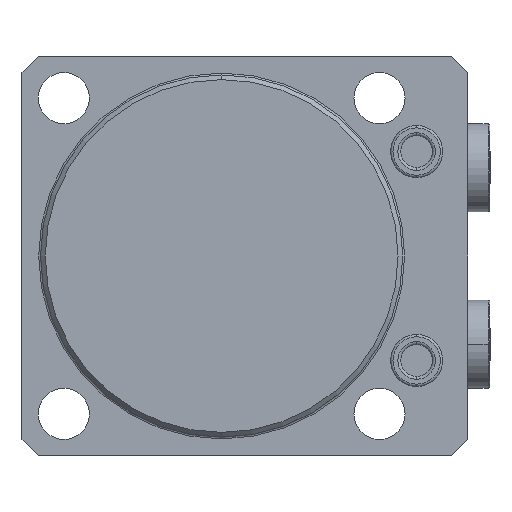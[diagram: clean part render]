
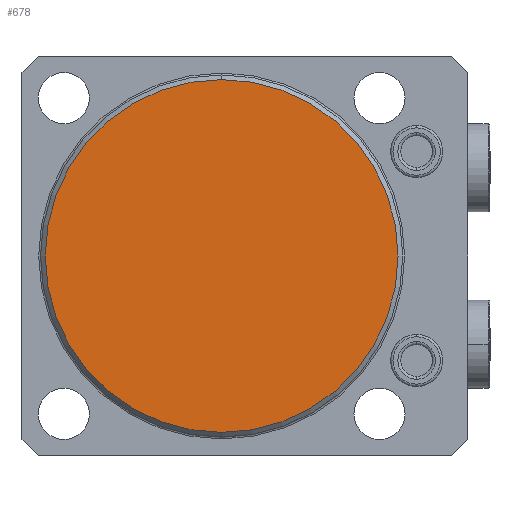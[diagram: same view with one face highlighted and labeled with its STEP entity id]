
A CAD part, front view. The second image highlights one B-rep face of the part: STEP entity #678.
In plain terms, the highlighted planar face has unit normal (0, -1, 0) as drawn and (0, 1, 0) by its records, which use the part's own axes.
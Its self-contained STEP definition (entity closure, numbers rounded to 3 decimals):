
#236=PLANE('',#4848);
#678=ADVANCED_FACE('',(#934),#236,.T.);
#934=FACE_OUTER_BOUND('',#1213,.F.);
#1213=EDGE_LOOP('',(#2819,#2820));
#2819=ORIENTED_EDGE('',*,*,#4029,.T.);
#2820=ORIENTED_EDGE('',*,*,#3940,.T.);
#3396=VERTEX_POINT('',#7398);
#3397=VERTEX_POINT('',#7399);
#3940=EDGE_CURVE('',#3396,#3397,#4338,.T.);
#4029=EDGE_CURVE('',#3397,#3396,#4356,.T.);
#4338=CIRCLE('',#4814,38.);
#4356=CIRCLE('',#4847,38.);
#4814=AXIS2_PLACEMENT_3D('',#7397,#6003,#6004);
#4847=AXIS2_PLACEMENT_3D('',#7656,#6117,#6118);
#4848=AXIS2_PLACEMENT_3D('',#7657,#6119,#6120);
#6003=DIRECTION('',(0.,-1.,0.));
#6004=DIRECTION('',(0.,0.,1.));
#6117=DIRECTION('',(0.,-1.,0.));
#6118=DIRECTION('',(0.,0.,1.));
#6119=DIRECTION('',(0.,1.,0.));
#6120=DIRECTION('',(0.,0.,1.));
#7397=CARTESIAN_POINT('',(0.,-55.,0.));
#7398=CARTESIAN_POINT('',(0.,-55.,-38.));
#7399=CARTESIAN_POINT('',(0.,-55.,38.));
#7656=CARTESIAN_POINT('',(0.,-55.,0.));
#7657=CARTESIAN_POINT('',(0.,-55.,0.));
